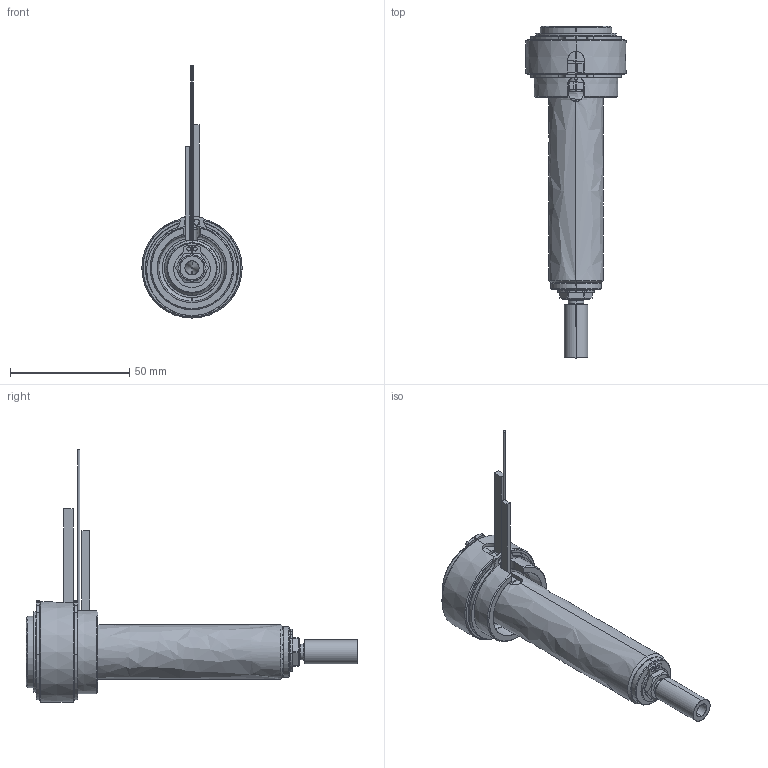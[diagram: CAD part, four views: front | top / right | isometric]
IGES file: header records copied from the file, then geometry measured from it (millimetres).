
Start section: SolidWorks IGES file using analytic representation for surfaces
Global section: file name: C:\Users\luca.EMPAD\Desktop\TEM\UGBE3502-M-A-P-5 [Ød-1.0 P-20 ØC-7.0].IGS; native system: SolidWorks 2012; preprocessor: SolidWorks 2012; author: luca; date: 120330.140415; units: millimetre
Bounding box: 42 x 139 x 105.6 mm (x, y, z)
Surface area: 28801 mm2 (no closed solid volume)
Topology: 0 solids, 0 shells, 181 faces, 3230 edges, 3230 vertices
Faces by surface type: revolution 114, bspline 67
